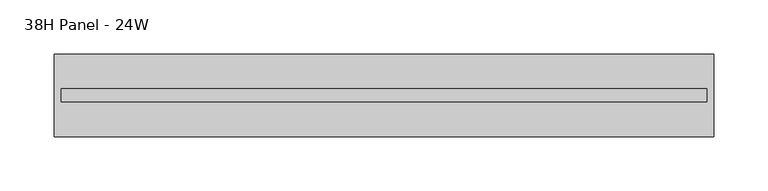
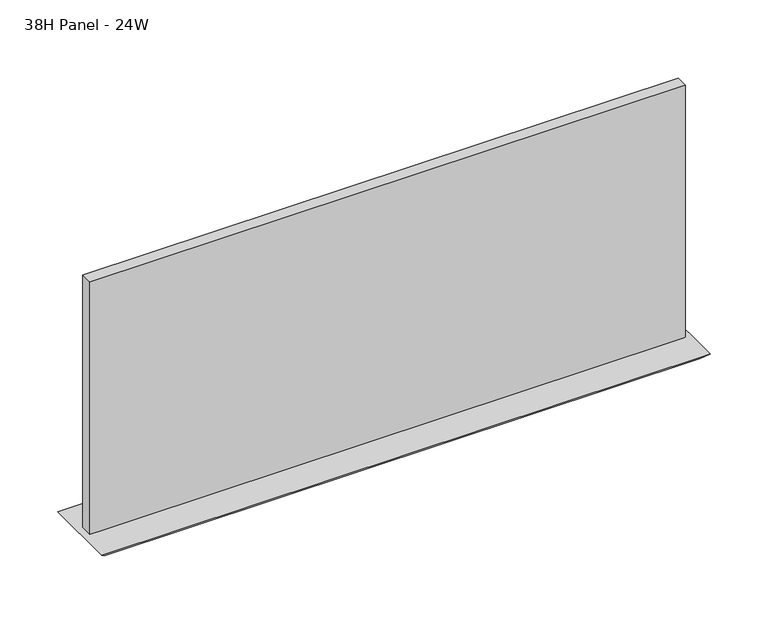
"""IFC4 building model written with IfcOpenShell, lengths in millimetres: furniture geometry, Steelcase - Montage - Tiles - 10H - Frameless Glass Stacker : 38H Panel - 24W."""

from ifc_helpers import new_model, si_unit, frame, origin, place, context, project, spatial, polyline, outline, extrude, faceted_brep, source, transform, mapped, element, save


def furniture_38h_panel_24w_416ae791(model_context):
    return source(origin(), model_context, "Body", "SolidModel", [
        faceted_brep([(609.6, -38.1000015, 958.85), (0.0, -38.1000015, 958.85), (6.35, -31.7500015, 952.5), (603.25, -31.7500015, 952.5), (6.35, 31.7500015, 952.5), (603.25, 31.7500015, 952.5), (0.0, 38.1000015, 958.85), (609.6, 38.1000015, 958.85)], [[[0, 1, 2, 3]], [[3, 2, 4, 5]], [[6, 7, 5, 4]], [[1, 0, 7, 6]], [[2, 1, 6, 4]], [[0, 3, 5, 7]]]),
        extrude(outline(polyline([(602.8181828, -5.9944001), (6.7818001, -5.9944001), (6.7818001, 5.9944008), (602.8181828, 5.9944008), (602.8181828, -5.9944001)])), frame((0.0, 0.0, 958.85), z_axis=(0.0, 0.0, 1.0), x_axis=(1.0, 0.0, 0.0)), (0.0, 0.0, 1.0), 267.7160475),
    ])


if __name__ == "__main__":
    model = new_model("IFC4")
    model_context = context("Model", 3, world=origin())
    ifc_project = project(units=[si_unit("LENGTHUNIT", "METRE", prefix="MILLI")], contexts=[model_context])
    site = spatial("IfcSite", under=ifc_project)
    building = spatial("IfcBuilding", under=site)
    placement = place(None, origin())
    furniture_38h_panel_24w_shape = furniture_38h_panel_24w_416ae791(model_context)
    element("IfcFurniture", 1, ObjectType="Steelcase - Montage - Tiles - 10H - Frameless Glass Stacker : 38H Panel - 24W", at=placement, inside=building, context=model_context, shape_type="MappedRepresentation", body=[
        mapped(furniture_38h_panel_24w_shape, transform((0.0, 0.0, 0.0), x_axis=(1.0, 0.0, 0.0), y_axis=(0.0, 1.0, 0.0), z_axis=(0.0, 0.0, 1.0))),
    ])
    save(model, "model.ifc")
